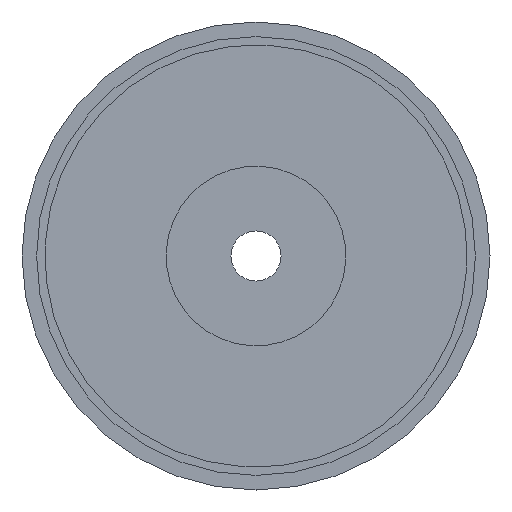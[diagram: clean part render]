
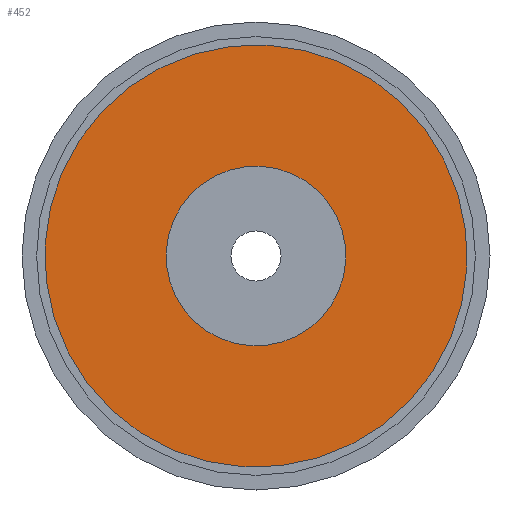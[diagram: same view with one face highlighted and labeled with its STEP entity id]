
A CAD part, front view. The second image highlights one B-rep face of the part: STEP entity #452.
In plain terms, the highlighted planar face has unit normal (0, -1, 0).
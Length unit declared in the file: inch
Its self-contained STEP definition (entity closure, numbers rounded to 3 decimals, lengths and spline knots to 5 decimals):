
#1 = CARTESIAN_POINT ( 'NONE',  ( 0.27617, -0.365, 0.421 ) ) ;
#5 = AXIS2_PLACEMENT_3D ( 'NONE', #507, #278, #38 ) ;
#14 = DIRECTION ( 'NONE',  ( 0., 1., 0. ) ) ;
#16 = ORIENTED_EDGE ( 'NONE', *, *, #439, .T. ) ;
#38 = DIRECTION ( 'NONE',  ( -0.549, 0., -0.836 ) ) ;
#49 = FACE_BOUND ( 'NONE', #407, .T. ) ;
#65 = CIRCLE ( 'NONE', #110, 0.5035 ) ;
#101 = CIRCLE ( 'NONE', #392, 0.5035 ) ;
#106 = VERTEX_POINT ( 'NONE', #280 ) ;
#110 = AXIS2_PLACEMENT_3D ( 'NONE', #516, #250, #207 ) ;
#128 = EDGE_CURVE ( 'NONE', #323, #306, #332, .T. ) ;
#134 = DIRECTION ( 'NONE',  ( -0.549, 0., -0.836 ) ) ;
#139 = CARTESIAN_POINT ( 'NONE',  ( 0., -0.365, 0. ) ) ;
#177 = EDGE_LOOP ( 'NONE', ( #529, #216 ) ) ;
#184 = ORIENTED_EDGE ( 'NONE', *, *, #201, .T. ) ;
#190 = VERTEX_POINT ( 'NONE', #1 ) ;
#201 = EDGE_CURVE ( 'NONE', #106, #190, #65, .T. ) ;
#207 = DIRECTION ( 'NONE',  ( -0.549, 0., -0.836 ) ) ;
#211 = DIRECTION ( 'NONE',  ( 0., 1., 0. ) ) ;
#216 = ORIENTED_EDGE ( 'NONE', *, *, #128, .F. ) ;
#217 = PLANE ( 'NONE',  #255 ) ;
#246 = CARTESIAN_POINT ( 'NONE',  ( 0., -0.365, 0. ) ) ;
#250 = DIRECTION ( 'NONE',  ( 0., 1., 0. ) ) ;
#255 = AXIS2_PLACEMENT_3D ( 'NONE', #523, #308, #528 ) ;
#278 = DIRECTION ( 'NONE',  ( 0., 1., 0. ) ) ;
#280 = CARTESIAN_POINT ( 'NONE',  ( -0.27617, -0.365, -0.421 ) ) ;
#290 = AXIS2_PLACEMENT_3D ( 'NONE', #246, #211, #134 ) ;
#306 = VERTEX_POINT ( 'NONE', #327 ) ;
#307 = EDGE_CURVE ( 'NONE', #306, #323, #318, .T. ) ;
#308 = DIRECTION ( 'NONE',  ( 0., 1., 0. ) ) ;
#318 = CIRCLE ( 'NONE', #290, 1.1835 ) ;
#323 = VERTEX_POINT ( 'NONE', #336 ) ;
#327 = CARTESIAN_POINT ( 'NONE',  ( 0.64916, -0.365, 0.98958 ) ) ;
#332 = CIRCLE ( 'NONE', #5, 1.1835 ) ;
#336 = CARTESIAN_POINT ( 'NONE',  ( -0.64916, -0.365, -0.98958 ) ) ;
#346 = FACE_OUTER_BOUND ( 'NONE', #177, .T. ) ;
#392 = AXIS2_PLACEMENT_3D ( 'NONE', #139, #14, #482 ) ;
#407 = EDGE_LOOP ( 'NONE', ( #16, #184 ) ) ;
#439 = EDGE_CURVE ( 'NONE', #190, #106, #101, .T. ) ;
#452 = ADVANCED_FACE ( 'NONE', ( #346, #49 ), #217, .F. ) ;
#482 = DIRECTION ( 'NONE',  ( -0.549, 0., -0.836 ) ) ;
#507 = CARTESIAN_POINT ( 'NONE',  ( 0., -0.365, 0. ) ) ;
#516 = CARTESIAN_POINT ( 'NONE',  ( 0., -0.365, 0. ) ) ;
#523 = CARTESIAN_POINT ( 'NONE',  ( 0., -0.365, 0. ) ) ;
#528 = DIRECTION ( 'NONE',  ( -0.549, 0., -0.836 ) ) ;
#529 = ORIENTED_EDGE ( 'NONE', *, *, #307, .F. ) ;
